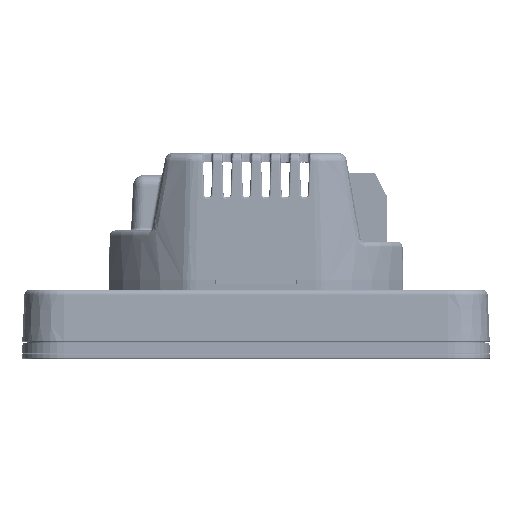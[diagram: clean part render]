
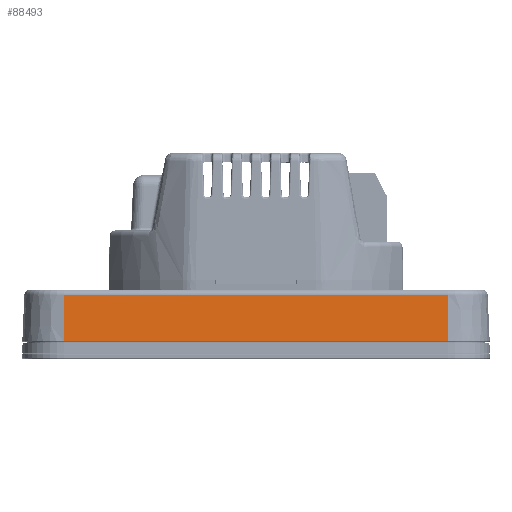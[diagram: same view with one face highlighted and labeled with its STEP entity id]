
A CAD part, left-side view. The second image highlights one B-rep face of the part: STEP entity #88493.
In plain terms, the highlighted planar face has unit normal (-0.999, 0, 0.044) as drawn and (0.999, 0, 0.044) by its records, which use the part's own axes.
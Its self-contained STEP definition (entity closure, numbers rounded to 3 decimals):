
#15365=FACE_OUTER_BOUND('',#22213,.T.);
#22213=EDGE_LOOP('',(#78255,#78256,#78257,#78258));
#28881=LINE('',#164957,#35711);
#28916=LINE('',#165083,#35746);
#28917=LINE('',#165087,#35747);
#28918=LINE('',#165088,#35748);
#35711=VECTOR('',#116854,69.5);
#35746=VECTOR('',#116965,8.347);
#35747=VECTOR('',#116970,8.347);
#35748=VECTOR('',#116971,69.5);
#44414=VERTEX_POINT('',#164950);
#44417=VERTEX_POINT('',#164955);
#44470=VERTEX_POINT('',#165082);
#44471=VERTEX_POINT('',#165086);
#55859=EDGE_CURVE('',#44417,#44414,#28881,.T.);
#55922=EDGE_CURVE('',#44414,#44470,#28916,.T.);
#55924=EDGE_CURVE('',#44471,#44417,#28917,.T.);
#55925=EDGE_CURVE('',#44470,#44471,#28918,.T.);
#78255=ORIENTED_EDGE('',*,*,#55859,.F.);
#78256=ORIENTED_EDGE('',*,*,#55924,.F.);
#78257=ORIENTED_EDGE('',*,*,#55925,.F.);
#78258=ORIENTED_EDGE('',*,*,#55922,.F.);
#84023=PLANE('',#96282);
#88493=ADVANCED_FACE('',(#15365),#84023,.T.);
#96282=AXIS2_PLACEMENT_3D('',#165085,#116968,#116969);
#116854=DIRECTION('',(0.,-1.,0.));
#116965=DIRECTION('',(-0.044,0.,0.999));
#116968=DIRECTION('center_axis',(0.999,0.,0.044));
#116969=DIRECTION('ref_axis',(0.,1.,0.));
#116970=DIRECTION('',(0.044,0.,-0.999));
#116971=DIRECTION('',(0.,1.,0.));
#164950=CARTESIAN_POINT('',(41.982,-34.75,-6.796));
#164955=CARTESIAN_POINT('',(41.982,34.75,-6.796));
#164957=CARTESIAN_POINT('',(41.982,34.75,-6.796));
#165082=CARTESIAN_POINT('',(41.618,-34.75,1.544));
#165083=CARTESIAN_POINT('',(41.982,-34.75,-6.796));
#165085=CARTESIAN_POINT('Origin',(41.621,-42.25,1.492));
#165086=CARTESIAN_POINT('',(41.618,34.75,1.544));
#165087=CARTESIAN_POINT('',(41.618,34.75,1.544));
#165088=CARTESIAN_POINT('',(41.618,-34.75,1.544));
